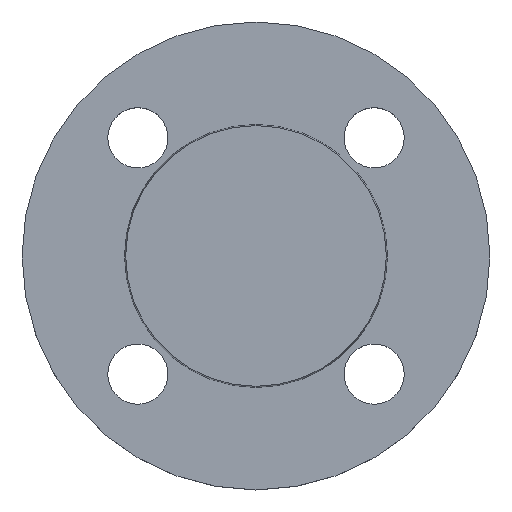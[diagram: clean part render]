
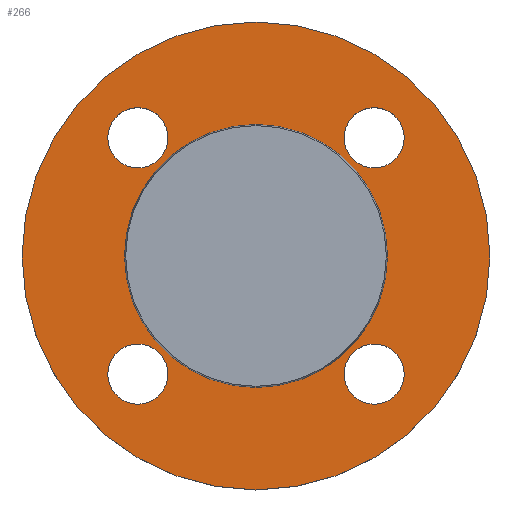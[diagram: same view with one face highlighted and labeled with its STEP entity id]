
A CAD part, top view. The second image highlights one B-rep face of the part: STEP entity #266.
In plain terms, the highlighted planar face has unit normal (0, 0, 1).
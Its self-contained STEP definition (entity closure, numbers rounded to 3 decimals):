
#6 = ORIENTED_EDGE ( 'NONE', *, *, #427, .T. ) ;
#15 = EDGE_LOOP ( 'NONE', ( #6, #33 ) ) ;
#16 = CARTESIAN_POINT ( 'NONE',  ( 70., 0., -2. ) ) ;
#17 = EDGE_CURVE ( 'NONE', #328, #393, #340, .T. ) ;
#18 = FACE_BOUND ( 'NONE', #212, .T. ) ;
#22 = CIRCLE ( 'NONE', #382, 9. ) ;
#23 = CARTESIAN_POINT ( 'NONE',  ( 35.355, 35.355, -2. ) ) ;
#31 = ORIENTED_EDGE ( 'NONE', *, *, #254, .T. ) ;
#33 = ORIENTED_EDGE ( 'NONE', *, *, #188, .T. ) ;
#34 = VERTEX_POINT ( 'NONE', #534 ) ;
#36 = DIRECTION ( 'NONE',  ( 1., 0., 0. ) ) ;
#37 = ORIENTED_EDGE ( 'NONE', *, *, #404, .F. ) ;
#48 = VERTEX_POINT ( 'NONE', #379 ) ;
#50 = CARTESIAN_POINT ( 'NONE',  ( -39.353, 0., -2. ) ) ;
#65 = FACE_BOUND ( 'NONE', #185, .T. ) ;
#73 = CIRCLE ( 'NONE', #643, 39.353 ) ;
#79 = VERTEX_POINT ( 'NONE', #327 ) ;
#83 = CIRCLE ( 'NONE', #442, 9. ) ;
#84 = VERTEX_POINT ( 'NONE', #535 ) ;
#90 = ORIENTED_EDGE ( 'NONE', *, *, #530, .T. ) ;
#99 = DIRECTION ( 'NONE',  ( 1., 0., 0. ) ) ;
#113 = ORIENTED_EDGE ( 'NONE', *, *, #374, .T. ) ;
#120 = AXIS2_PLACEMENT_3D ( 'NONE', #596, #141, #342 ) ;
#122 = DIRECTION ( 'NONE',  ( -1., 0., 0. ) ) ;
#141 = DIRECTION ( 'NONE',  ( 0., 0., -1. ) ) ;
#143 = DIRECTION ( 'NONE',  ( 0., 0., -1. ) ) ;
#144 = PLANE ( 'NONE',  #360 ) ;
#145 = CIRCLE ( 'NONE', #236, 70. ) ;
#157 = DIRECTION ( 'NONE',  ( 1., 0., 0. ) ) ;
#158 = DIRECTION ( 'NONE',  ( 0., 0., -1. ) ) ;
#159 = DIRECTION ( 'NONE',  ( 1., 0., 0. ) ) ;
#160 = DIRECTION ( 'NONE',  ( 0., 0., -1. ) ) ;
#173 = EDGE_CURVE ( 'NONE', #383, #34, #439, .T. ) ;
#176 = ORIENTED_EDGE ( 'NONE', *, *, #389, .T. ) ;
#183 = CARTESIAN_POINT ( 'NONE',  ( 0., 0., -2. ) ) ;
#184 = CIRCLE ( 'NONE', #555, 9. ) ;
#185 = EDGE_LOOP ( 'NONE', ( #31, #645 ) ) ;
#188 = EDGE_CURVE ( 'NONE', #249, #281, #73, .T. ) ;
#203 = EDGE_CURVE ( 'NONE', #265, #84, #595, .T. ) ;
#205 = CARTESIAN_POINT ( 'NONE',  ( -35.355, -35.355, -2. ) ) ;
#210 = CARTESIAN_POINT ( 'NONE',  ( 44.355, 35.355, -2. ) ) ;
#212 = EDGE_LOOP ( 'NONE', ( #90, #325 ) ) ;
#213 = CARTESIAN_POINT ( 'NONE',  ( 0., 0., -2. ) ) ;
#214 = FACE_BOUND ( 'NONE', #15, .T. ) ;
#220 = DIRECTION ( 'NONE',  ( 0., 0., -1. ) ) ;
#221 = EDGE_LOOP ( 'NONE', ( #113, #630 ) ) ;
#236 = AXIS2_PLACEMENT_3D ( 'NONE', #213, #415, #620 ) ;
#242 = VERTEX_POINT ( 'NONE', #210 ) ;
#245 = CARTESIAN_POINT ( 'NONE',  ( -44.355, -35.355, -2. ) ) ;
#249 = VERTEX_POINT ( 'NONE', #412 ) ;
#254 = EDGE_CURVE ( 'NONE', #34, #383, #392, .T. ) ;
#263 = FACE_BOUND ( 'NONE', #221, .T. ) ;
#265 = VERTEX_POINT ( 'NONE', #516 ) ;
#266 = ADVANCED_FACE ( 'NONE', ( #65, #263, #465, #18, #214, #417 ), #144, .T. ) ;
#270 = AXIS2_PLACEMENT_3D ( 'NONE', #283, #486, #36 ) ;
#281 = VERTEX_POINT ( 'NONE', #50 ) ;
#283 = CARTESIAN_POINT ( 'NONE',  ( 35.355, -35.355, -2. ) ) ;
#303 = CARTESIAN_POINT ( 'NONE',  ( 26.355, -35.355, -2. ) ) ;
#325 = ORIENTED_EDGE ( 'NONE', *, *, #636, .T. ) ;
#327 = CARTESIAN_POINT ( 'NONE',  ( -26.355, -35.355, -2. ) ) ;
#328 = VERTEX_POINT ( 'NONE', #501 ) ;
#335 = VERTEX_POINT ( 'NONE', #245 ) ;
#339 = AXIS2_PLACEMENT_3D ( 'NONE', #598, #143, #344 ) ;
#340 = CIRCLE ( 'NONE', #627, 70. ) ;
#342 = DIRECTION ( 'NONE',  ( -1., 0., 0. ) ) ;
#344 = DIRECTION ( 'NONE',  ( 1., 0., 0. ) ) ;
#345 = CARTESIAN_POINT ( 'NONE',  ( 39.353, 0., -2. ) ) ;
#358 = DIRECTION ( 'NONE',  ( 1., 0., 0. ) ) ;
#360 = AXIS2_PLACEMENT_3D ( 'NONE', #345, #556, #99 ) ;
#361 = DIRECTION ( 'NONE',  ( 1., 0., 0. ) ) ;
#370 = CARTESIAN_POINT ( 'NONE',  ( 0., 0., -2. ) ) ;
#374 = EDGE_CURVE ( 'NONE', #79, #335, #22, .T. ) ;
#375 = EDGE_LOOP ( 'NONE', ( #176, #473 ) ) ;
#379 = CARTESIAN_POINT ( 'NONE',  ( 26.355, 35.355, -2. ) ) ;
#382 = AXIS2_PLACEMENT_3D ( 'NONE', #205, #407, #610 ) ;
#383 = VERTEX_POINT ( 'NONE', #303 ) ;
#385 = DIRECTION ( 'NONE',  ( 0., 0., -1. ) ) ;
#389 = EDGE_CURVE ( 'NONE', #84, #265, #551, .T. ) ;
#392 = CIRCLE ( 'NONE', #621, 9. ) ;
#393 = VERTEX_POINT ( 'NONE', #16 ) ;
#399 = CIRCLE ( 'NONE', #120, 39.353 ) ;
#404 = EDGE_CURVE ( 'NONE', #393, #328, #145, .T. ) ;
#407 = DIRECTION ( 'NONE',  ( 0., 0., -1. ) ) ;
#408 = CARTESIAN_POINT ( 'NONE',  ( -35.355, 35.355, -2. ) ) ;
#410 = CARTESIAN_POINT ( 'NONE',  ( -35.355, 35.355, -2. ) ) ;
#412 = CARTESIAN_POINT ( 'NONE',  ( 39.353, 0., -2. ) ) ;
#414 = EDGE_LOOP ( 'NONE', ( #37, #447 ) ) ;
#415 = DIRECTION ( 'NONE',  ( 0., 0., -1. ) ) ;
#417 = FACE_OUTER_BOUND ( 'NONE', #414, .T. ) ;
#422 = DIRECTION ( 'NONE',  ( 1., 0., 0. ) ) ;
#427 = EDGE_CURVE ( 'NONE', #281, #249, #399, .T. ) ;
#439 = CIRCLE ( 'NONE', #270, 9. ) ;
#442 = AXIS2_PLACEMENT_3D ( 'NONE', #612, #158, #358 ) ;
#447 = ORIENTED_EDGE ( 'NONE', *, *, #17, .F. ) ;
#465 = FACE_BOUND ( 'NONE', #375, .T. ) ;
#473 = ORIENTED_EDGE ( 'NONE', *, *, #203, .T. ) ;
#486 = DIRECTION ( 'NONE',  ( 0., 0., -1. ) ) ;
#487 = EDGE_CURVE ( 'NONE', #335, #79, #626, .T. ) ;
#501 = CARTESIAN_POINT ( 'NONE',  ( -70., 0., -2. ) ) ;
#516 = CARTESIAN_POINT ( 'NONE',  ( -44.355, 35.355, -2. ) ) ;
#517 = AXIS2_PLACEMENT_3D ( 'NONE', #408, #611, #157 ) ;
#530 = EDGE_CURVE ( 'NONE', #242, #48, #83, .T. ) ;
#534 = CARTESIAN_POINT ( 'NONE',  ( 44.355, -35.355, -2. ) ) ;
#535 = CARTESIAN_POINT ( 'NONE',  ( -26.355, 35.355, -2. ) ) ;
#551 = CIRCLE ( 'NONE', #641, 9. ) ;
#555 = AXIS2_PLACEMENT_3D ( 'NONE', #23, #220, #422 ) ;
#556 = DIRECTION ( 'NONE',  ( 0., 0., 1. ) ) ;
#576 = DIRECTION ( 'NONE',  ( 0., 0., -1. ) ) ;
#591 = DIRECTION ( 'NONE',  ( -1., 0., 0. ) ) ;
#595 = CIRCLE ( 'NONE', #517, 9. ) ;
#596 = CARTESIAN_POINT ( 'NONE',  ( 0., 0., -2. ) ) ;
#598 = CARTESIAN_POINT ( 'NONE',  ( -35.355, -35.355, -2. ) ) ;
#610 = DIRECTION ( 'NONE',  ( 1., 0., 0. ) ) ;
#611 = DIRECTION ( 'NONE',  ( 0., 0., -1. ) ) ;
#612 = CARTESIAN_POINT ( 'NONE',  ( 35.355, 35.355, -2. ) ) ;
#614 = DIRECTION ( 'NONE',  ( 0., 0., -1. ) ) ;
#615 = CARTESIAN_POINT ( 'NONE',  ( 35.355, -35.355, -2. ) ) ;
#620 = DIRECTION ( 'NONE',  ( -1., 0., 0. ) ) ;
#621 = AXIS2_PLACEMENT_3D ( 'NONE', #615, #160, #361 ) ;
#626 = CIRCLE ( 'NONE', #339, 9. ) ;
#627 = AXIS2_PLACEMENT_3D ( 'NONE', #370, #576, #122 ) ;
#630 = ORIENTED_EDGE ( 'NONE', *, *, #487, .T. ) ;
#636 = EDGE_CURVE ( 'NONE', #48, #242, #184, .T. ) ;
#641 = AXIS2_PLACEMENT_3D ( 'NONE', #410, #614, #159 ) ;
#643 = AXIS2_PLACEMENT_3D ( 'NONE', #183, #385, #591 ) ;
#645 = ORIENTED_EDGE ( 'NONE', *, *, #173, .T. ) ;
